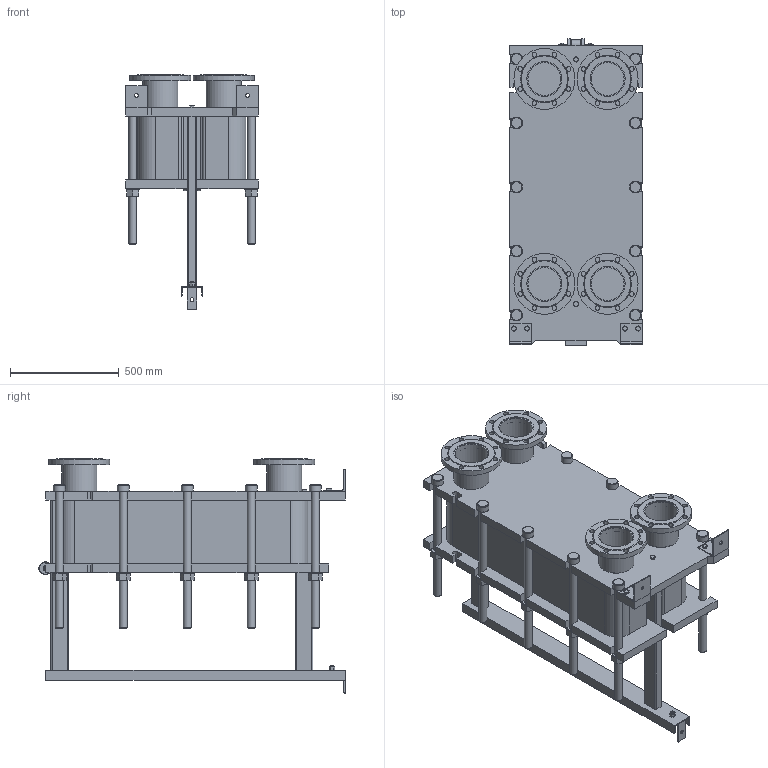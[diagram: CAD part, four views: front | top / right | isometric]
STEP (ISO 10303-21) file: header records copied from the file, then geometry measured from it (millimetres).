
FILE_DESCRIPTION(/* description */ (''),/* implementation_level */ '2;1');
FILE_NAME(/* name */ 'C:\Users\zhuro\Desktop\ENCO\TO\ЭН-041\ЭН-0,5-041-85-1.stp',/* time_stamp */ '2022-06-06T10:56:39+03:00',/* author */ ('zhuro'),/* organization */ (''),/* preprocessor_version */ 'ST-DEVELOPER v18.1',/* originating_system */ 'Autodesk Inventor 2022',/* authorisation */ '');
FILE_SCHEMA (('AUTOMOTIVE_DESIGN { 1 0 10303 214 3 1 1 }'));
Length unit declared in the file: millimetre
Products named in the file (1): ЭН-0,5-041-85-1
Bounding box: 610 x 1406.5 x 1077.5 mm (x, y, z)
Volume: 244353795.5 mm3; surface area: 8693773.4 mm2
Topology: 52 solids, 52 shells, 711 faces, 1696 edges, 1094 vertices
Faces by surface type: plane 487, cylinder 177, cone 41, torus 6
Full cylindrical faces by diameter (mm): 8 x4, 10 x2, 16 x8, 18 x3, 22 x32, 36 x24, 50 x1, 54 x10, 60 x12, 151 x4, 161 x8, 280 x4
Entity records: 22667 total; most frequent: CARTESIAN_POINT 5230, DIRECTION 3644, ORIENTED_EDGE 3392, EDGE_CURVE 1696, AXIS2_PLACEMENT_3D 1272, LINE 1100, VECTOR 1100, VERTEX_POINT 1094
